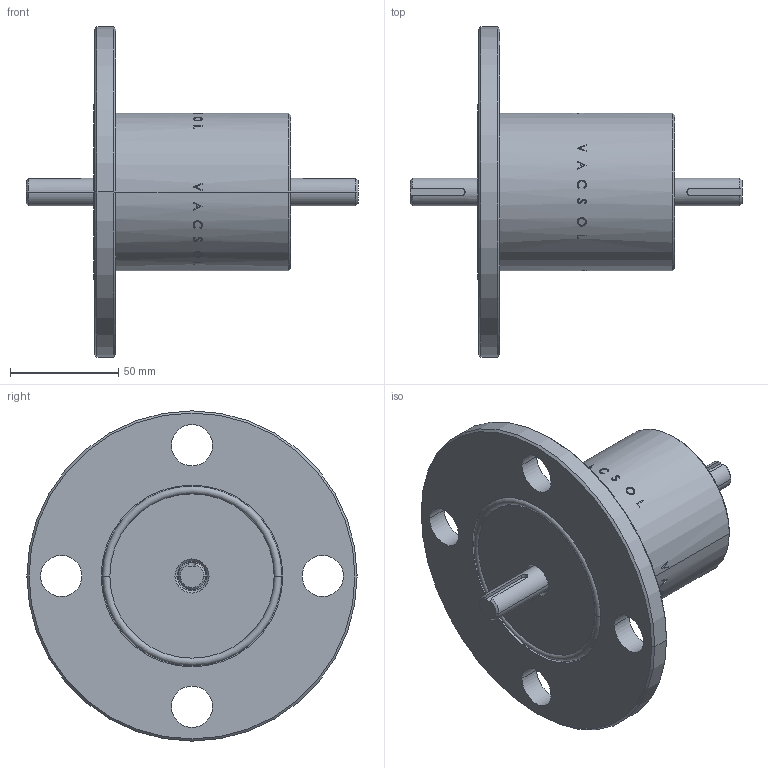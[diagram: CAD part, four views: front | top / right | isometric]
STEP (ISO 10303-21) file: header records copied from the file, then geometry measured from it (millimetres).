
FILE_DESCRIPTION (( 'STEP AP203' ), '1' );
FILE_NAME ('P63050.STEP', '2010-10-11T10:48:27', ( 'user' ), ( '' ), 'SwSTEP 2.0', 'SolidWorks 2007', '' );
FILE_SCHEMA (( 'CONFIG_CONTROL_DESIGN' ));
Length unit declared in the file: millimetre
Products named in the file (1): P63050
Bounding box: 153.2 x 152.4 x 152.4 mm (x, y, z)
Volume: 508760.3 mm3; surface area: 68634.4 mm2
Topology: 2 solids, 2 shells, 272 faces, 693 edges, 456 vertices
Faces by surface type: bspline 177, cylinder 55, plane 20, cone 16, torus 4
Entity records: 23697 total; most frequent: CARTESIAN_POINT 18533, ORIENTED_EDGE 1386, EDGE_CURVE 693, B_SPLINE_CURVE_WITH_KNOTS 541, VERTEX_POINT 456, DIRECTION 435, EDGE_LOOP 313, ADVANCED_FACE 272
